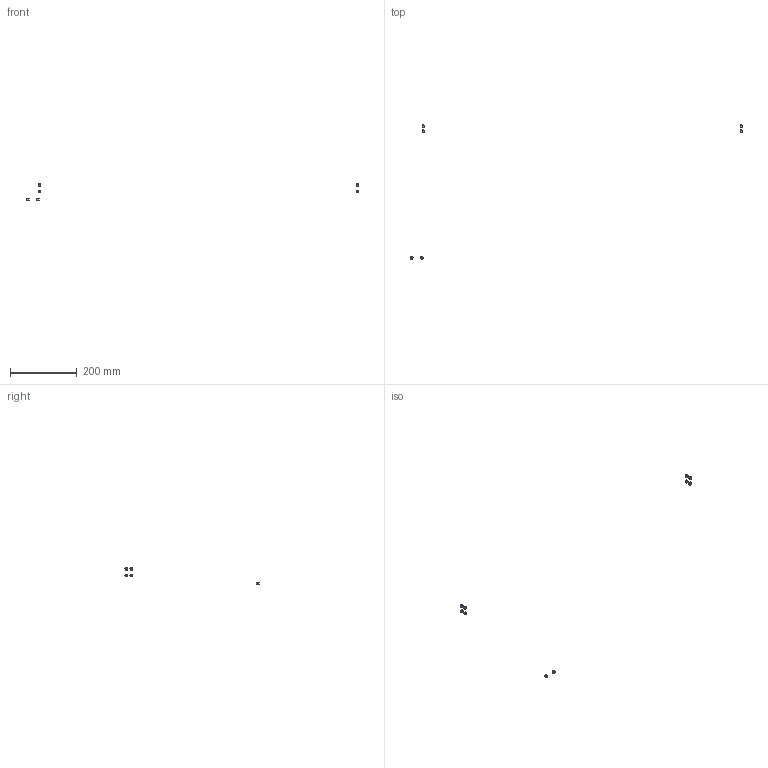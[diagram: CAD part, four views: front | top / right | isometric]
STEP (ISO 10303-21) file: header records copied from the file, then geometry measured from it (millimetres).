
FILE_DESCRIPTION(/* description */ (''),/* implementation_level */ '2;1');
FILE_NAME(/* name */ 'OPE885~1',/* time_stamp */ '2014-02-14T19:49:40+01:00',/* author */ (''),/* organization */ (''),/* preprocessor_version */ 'ST-DEVELOPER v14',/* originating_system */ '',/* authorisation */ '');
FILE_SCHEMA (('AUTOMOTIVE_DESIGN'));
Length unit declared in the file: millimetre
Products named in the file (2): Document; nut DIN985-like, lock, M5
Assembly tree (10 placements, depth 2):
  Document
    nut DIN985-like, lock, M5  x10
Bounding box: 991.91 x 401.15 x 50.55 mm (x, y, z)
Volume: 1759.8 mm3; surface area: 2717.5 mm2
Topology: 10 solids, 10 shells, 540 faces, 1300 edges, 780 vertices
Faces by surface type: bspline 310, plane 230
Entity records: 3646 total; most frequent: CARTESIAN_POINT 1923, ORIENTED_EDGE 260, PCURVE 260, DEFINITIONAL_REPRESENTATION 260, B_SPLINE_CURVE_WITH_KNOTS 249, SURFACE_CURVE 130, EDGE_CURVE 130, VERTEX_POINT 78
